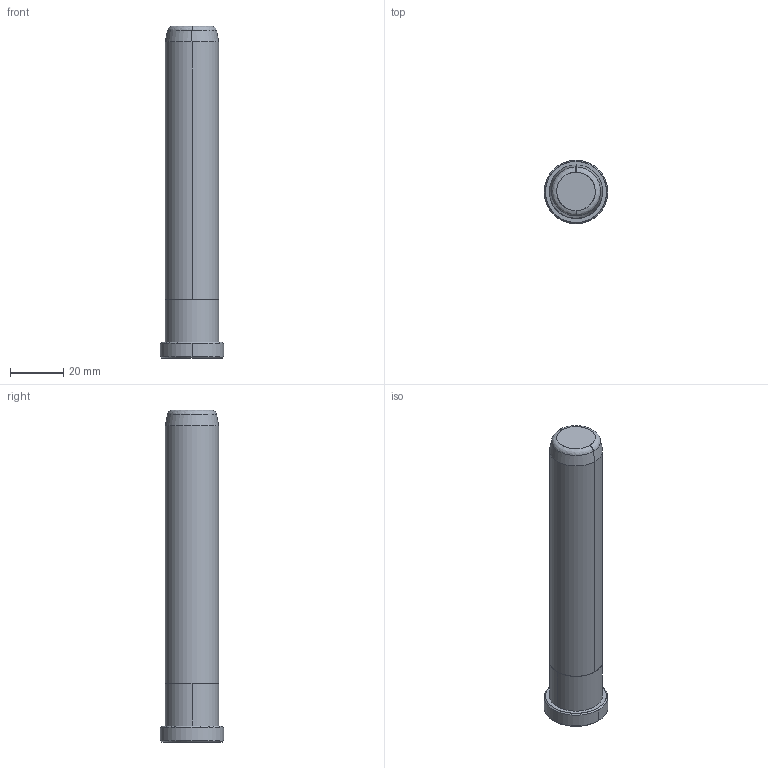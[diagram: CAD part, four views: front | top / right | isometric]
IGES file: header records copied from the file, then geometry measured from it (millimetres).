
Start section: START RECORD GO HERE.
Global section: file name: B85820125.igs; native system: DASSAULT SYSTEMES CATIA V5 R20 - www.3ds.com; preprocessor: CATIA Version 5 Release 20 ; author: Utente; organization: NB04-ASUS; date: 20200419.205007; units: millimetre
Bounding box: 24 x 24 x 125 mm (x, y, z)
Surface area: 8679.9 mm2 (no closed solid volume)
Topology: 0 solids, 0 shells, 20 faces, 80 edges, 80 vertices
Faces by surface type: revolution 16, plane 4
